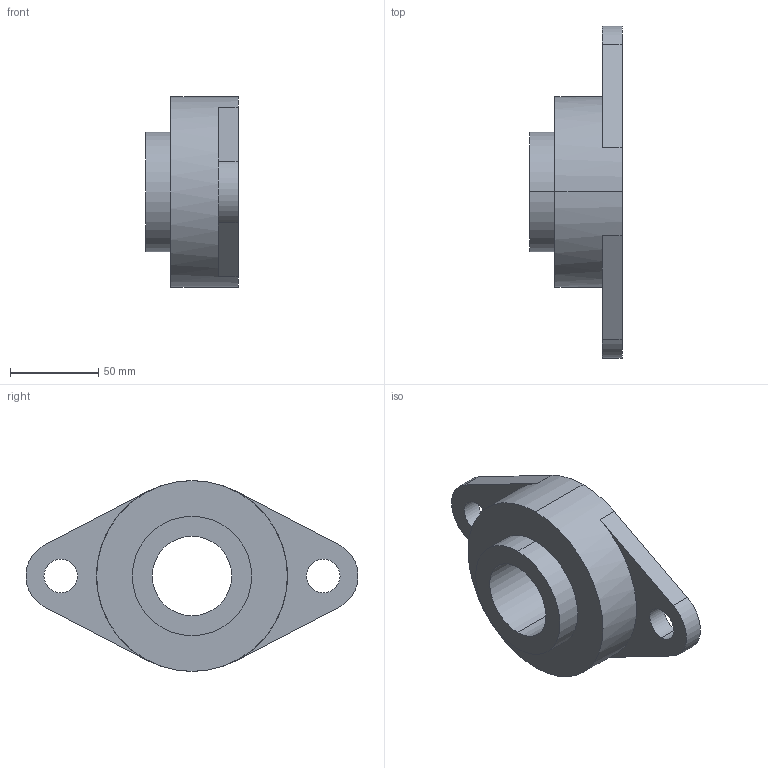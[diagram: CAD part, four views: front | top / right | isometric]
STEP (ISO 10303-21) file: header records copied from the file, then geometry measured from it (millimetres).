
FILE_DESCRIPTION (( 'STEP AP203' ), '1' );
FILE_NAME ('UCFL 209.STEP', '2013-09-20T08:20:35', ( '' ), ( '' ), 'SwSTEP 2.0', 'SolidWorks 2010', '' );
FILE_SCHEMA (( 'CONFIG_CONTROL_DESIGN' ));
Length unit declared in the file: millimetre
Products named in the file (1): UCFL 209
Bounding box: 52.2 x 187.86 x 108 mm (x, y, z)
Volume: 356819.5 mm3; surface area: 48323.6 mm2
Topology: 1 solids, 1 shells, 21 faces, 58 edges, 40 vertices
Faces by surface type: cylinder 12, plane 8, bspline 1
Entity records: 823 total; most frequent: CARTESIAN_POINT 171, DIRECTION 126, ORIENTED_EDGE 116, EDGE_CURVE 58, AXIS2_PLACEMENT_3D 51, VERTEX_POINT 40, CIRCLE 30, EDGE_LOOP 28
